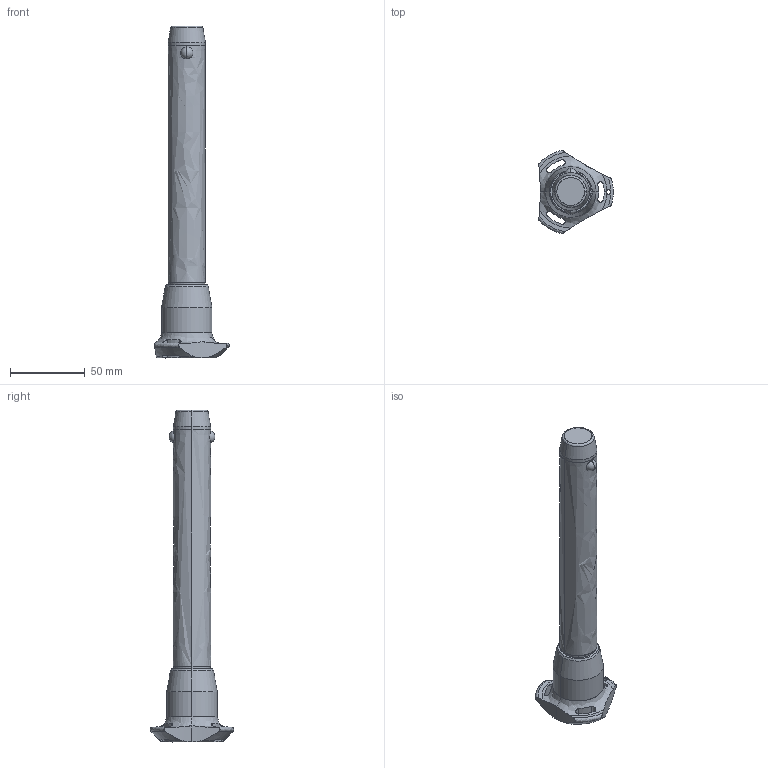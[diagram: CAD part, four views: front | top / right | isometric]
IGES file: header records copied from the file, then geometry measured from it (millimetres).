
Start section: SolidWorks IGES file using analytic representation for surfaces
Global section: file name: C:\Users\ianosborn\Desktop\QR1726_v2\QR1726_v2_20251115_IGES\QR1726.M25-150-T.igs; native system: SolidWorks 2019; preprocessor: SolidWorks 2019; author: IanOsborn; date: 251113.113141; units: millimetre
Bounding box: 50.03 x 56.02 x 222.7 mm (x, y, z)
Surface area: 23243.1 mm2 (no closed solid volume)
Topology: 0 solids, 0 shells, 68 faces, 1382 edges, 1378 vertices
Faces by surface type: revolution 52, bspline 16
